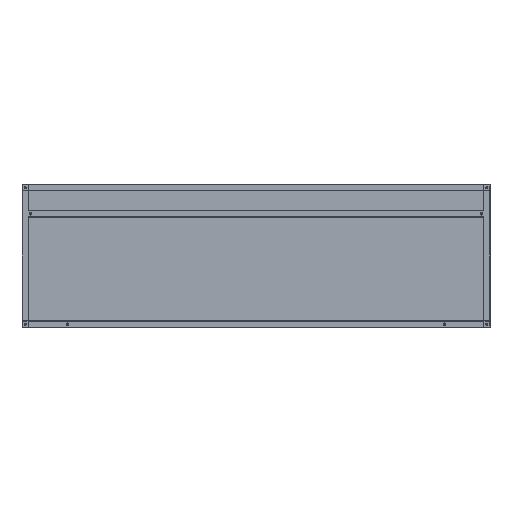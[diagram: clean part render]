
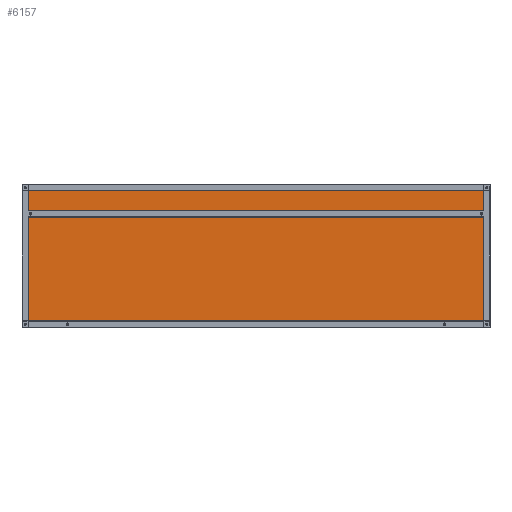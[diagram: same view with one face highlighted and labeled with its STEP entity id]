
A CAD part, front view. The second image highlights one B-rep face of the part: STEP entity #6157.
In plain terms, the highlighted planar face has unit normal (0, -1, 0) as drawn and (0, 0, -1) by its records, which use the part's own axes.
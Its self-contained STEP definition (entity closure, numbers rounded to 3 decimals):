
#213 = EDGE_CURVE ( 'NONE', #5839, #5582, #3995, .T. ) ;
#281 = VECTOR ( 'NONE', #6068, 1000. ) ;
#378 = CARTESIAN_POINT ( 'NONE',  ( 1775., 275., 0. ) ) ;
#455 = PLANE ( 'NONE',  #6109 ) ;
#796 = ORIENTED_EDGE ( 'NONE', *, *, #3719, .F. ) ;
#926 = CARTESIAN_POINT ( 'NONE',  ( 0., 0., 0. ) ) ;
#1155 = VECTOR ( 'NONE', #3600, 1000. ) ;
#1199 = EDGE_CURVE ( 'NONE', #2793, #5839, #1478, .T. ) ;
#1352 = ORIENTED_EDGE ( 'NONE', *, *, #5548, .F. ) ;
#1478 = LINE ( 'NONE', #2985, #1155 ) ;
#1863 = CARTESIAN_POINT ( 'NONE',  ( 25., 275., 0. ) ) ;
#2013 = LINE ( 'NONE', #2544, #3924 ) ;
#2065 = VECTOR ( 'NONE', #3298, 1000. ) ;
#2544 = CARTESIAN_POINT ( 'NONE',  ( 25., 275., 0. ) ) ;
#2793 = VERTEX_POINT ( 'NONE', #2810 ) ;
#2810 = CARTESIAN_POINT ( 'NONE',  ( 25., -250., 0. ) ) ;
#2985 = CARTESIAN_POINT ( 'NONE',  ( 25., -250., 0. ) ) ;
#3298 = DIRECTION ( 'NONE',  ( 0., -1., 0. ) ) ;
#3453 = ORIENTED_EDGE ( 'NONE', *, *, #1199, .F. ) ;
#3600 = DIRECTION ( 'NONE',  ( 1., 0., 0. ) ) ;
#3719 = EDGE_CURVE ( 'NONE', #5582, #5276, #2013, .T. ) ;
#3924 = VECTOR ( 'NONE', #4563, 1000. ) ;
#3974 = DIRECTION ( 'NONE',  ( 0., 0., 1. ) ) ;
#3983 = CARTESIAN_POINT ( 'NONE',  ( 25., 275., 0. ) ) ;
#3995 = LINE ( 'NONE', #378, #281 ) ;
#4563 = DIRECTION ( 'NONE',  ( -1., 0., 0. ) ) ;
#5276 = VERTEX_POINT ( 'NONE', #1863 ) ;
#5402 = LINE ( 'NONE', #3983, #2065 ) ;
#5443 = CARTESIAN_POINT ( 'NONE',  ( 1775., 275., 0. ) ) ;
#5548 = EDGE_CURVE ( 'NONE', #5276, #2793, #5402, .T. ) ;
#5570 = FACE_OUTER_BOUND ( 'NONE', #5689, .T. ) ;
#5582 = VERTEX_POINT ( 'NONE', #5443 ) ;
#5689 = EDGE_LOOP ( 'NONE', ( #1352, #796, #6050, #3453 ) ) ;
#5839 = VERTEX_POINT ( 'NONE', #6346 ) ;
#6050 = ORIENTED_EDGE ( 'NONE', *, *, #213, .F. ) ;
#6068 = DIRECTION ( 'NONE',  ( 0., 1., 0. ) ) ;
#6109 = AXIS2_PLACEMENT_3D ( 'NONE', #926, #3974, #6680 ) ;
#6157 = ADVANCED_FACE ( 'NONE', ( #5570 ), #455, .F. ) ;
#6346 = CARTESIAN_POINT ( 'NONE',  ( 1775., -250., 0. ) ) ;
#6680 = DIRECTION ( 'NONE',  ( 1., 0., 0. ) ) ;
